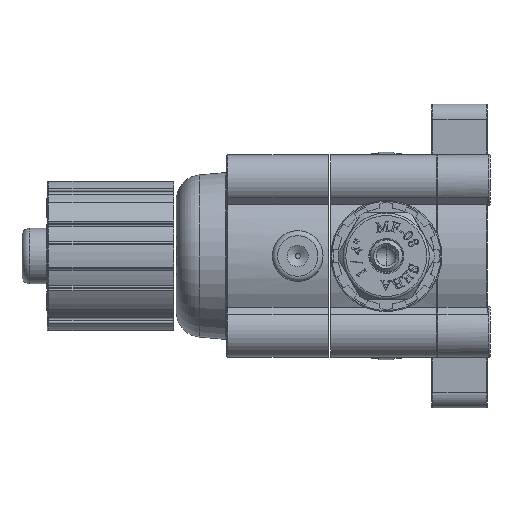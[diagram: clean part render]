
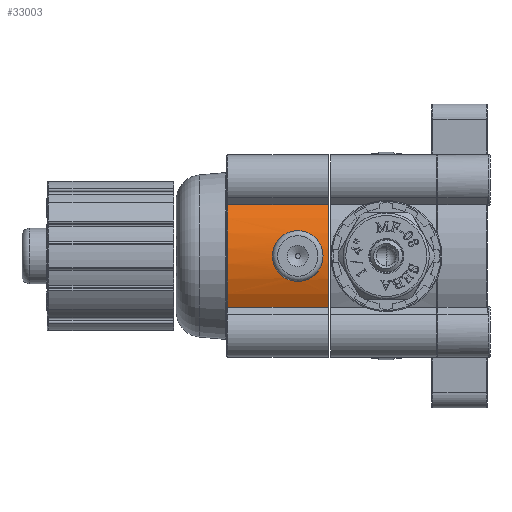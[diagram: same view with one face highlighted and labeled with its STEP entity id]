
A CAD part, left-side view. The second image highlights one B-rep face of the part: STEP entity #33003.
In plain terms, the highlighted cylindrical face has radius 20 mm (diameter 40 mm), a partial arc.
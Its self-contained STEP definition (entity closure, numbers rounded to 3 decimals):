
#1400=B_SPLINE_CURVE_WITH_KNOTS($,3,(#45909,#45910,#45911,#45912,#45913,
#45914,#45915,#45916,#45917,#45918,#45919,#45920,#45921,#45922,#45923,#45924,
#45925,#45926,#45927,#45928,#45929,#45930,#45931,#45932,#45933,#45934,#45935,
#45936,#45937,#45938,#45939,#45940,#45941,#45942,#45943),.UNSPECIFIED.,
 .T.,.F.,(4,2,2,2,2,2,2,2,3,2,2,2,2,2,2,2,4),(1.514,1.703,
1.892,2.081,2.271,2.46,2.649,
2.838,3.027,3.217,3.406,3.595,
3.784,3.973,4.163,4.352,4.541),
 .UNSPECIFIED.);
#1999=LINE($,#45902,#4986);
#2000=LINE($,#45906,#4987);
#4986=VECTOR($,#37539,19.8);
#4987=VECTOR($,#37542,19.8);
#7977=FACE_BOUND($,#10026,.T.);
#8209=FACE_OUTER_BOUND($,#10025,.T.);
#10025=EDGE_LOOP($,(#21161,#21162,#21163,#21164));
#10026=EDGE_LOOP($,(#21165));
#12069=CIRCLE($,#34835,20.);
#12070=CIRCLE($,#34836,20.);
#13213=VERTEX_POINT($,#45900);
#13214=VERTEX_POINT($,#45901);
#13215=VERTEX_POINT($,#45903);
#13216=VERTEX_POINT($,#45905);
#13217=VERTEX_POINT($,#45908);
#16386=EDGE_CURVE($,#13213,#13214,#1999,.T.);
#16387=EDGE_CURVE($,#13213,#13215,#12069,.F.);
#16388=EDGE_CURVE($,#13215,#13216,#2000,.T.);
#16389=EDGE_CURVE($,#13216,#13214,#12070,.T.);
#16390=EDGE_CURVE($,#13217,#13217,#1400,.T.);
#21161=ORIENTED_EDGE($,*,*,#16386,.F.);
#21162=ORIENTED_EDGE($,*,*,#16387,.T.);
#21163=ORIENTED_EDGE($,*,*,#16388,.T.);
#21164=ORIENTED_EDGE($,*,*,#16389,.T.);
#21165=ORIENTED_EDGE($,*,*,#16390,.F.);
#30707=CYLINDRICAL_SURFACE($,#34834,20.);
#33003=ADVANCED_FACE($,(#8209,#7977),#30707,.T.);
#34834=AXIS2_PLACEMENT_3D($,#45899,#37537,#37538);
#34835=AXIS2_PLACEMENT_3D($,#45904,#37540,#37541);
#34836=AXIS2_PLACEMENT_3D($,#45907,#37543,#37544);
#37537=DIRECTION('center_axis',(0.,-1.,0.));
#37538=DIRECTION('ref_axis',(0.,0.,-1.));
#37539=DIRECTION($,(0.,-1.,0.));
#37540=DIRECTION('center_axis',(0.,1.,0.));
#37541=DIRECTION('ref_axis',(0.,0.,1.));
#37542=DIRECTION($,(0.,-1.,0.));
#37543=DIRECTION('center_axis',(0.,1.,0.));
#37544=DIRECTION('ref_axis',(0.,0.,1.));
#45899=CARTESIAN_POINT('Origin',(0.,61.5,0.));
#45900=CARTESIAN_POINT('',(-17.229,61.3,10.158));
#45901=CARTESIAN_POINT('',(-17.229,41.5,10.158));
#45902=CARTESIAN_POINT($,(-17.229,61.3,10.158));
#45903=CARTESIAN_POINT('',(-17.229,61.3,-10.158));
#45904=CARTESIAN_POINT('Origin',(0.,61.3,0.));
#45905=CARTESIAN_POINT('',(-17.229,41.5,-10.158));
#45906=CARTESIAN_POINT($,(-17.229,61.3,-10.158));
#45907=CARTESIAN_POINT('Origin',(0.,41.5,0.));
#45908=CARTESIAN_POINT('',(-19.365,47.5,5.));
#45909=CARTESIAN_POINT('Ctrl Pts',(-19.365,47.5,5.));
#45910=CARTESIAN_POINT('Ctrl Pts',(-19.365,48.131,5.));
#45911=CARTESIAN_POINT('Ctrl Pts',(-19.399,48.802,4.873));
#45912=CARTESIAN_POINT('Ctrl Pts',(-19.52,50.033,4.362));
#45913=CARTESIAN_POINT('Ctrl Pts',(-19.606,50.593,3.978));
#45914=CARTESIAN_POINT('Ctrl Pts',(-19.764,51.478,3.093));
#45915=CARTESIAN_POINT('Ctrl Pts',(-19.849,51.862,2.533));
#45916=CARTESIAN_POINT('Ctrl Pts',(-19.967,52.373,1.302));
#45917=CARTESIAN_POINT('Ctrl Pts',(-20.,52.5,0.631));
#45918=CARTESIAN_POINT('Ctrl Pts',(-20.,52.5,-0.631));
#45919=CARTESIAN_POINT('Ctrl Pts',(-19.967,52.373,-1.302));
#45920=CARTESIAN_POINT('Ctrl Pts',(-19.849,51.862,-2.533));
#45921=CARTESIAN_POINT('Ctrl Pts',(-19.764,51.478,-3.093));
#45922=CARTESIAN_POINT('Ctrl Pts',(-19.606,50.593,-3.978));
#45923=CARTESIAN_POINT('Ctrl Pts',(-19.52,50.033,-4.362));
#45924=CARTESIAN_POINT('Ctrl Pts',(-19.399,48.802,-4.873));
#45925=CARTESIAN_POINT('Ctrl Pts',(-19.365,48.131,-5.));
#45926=CARTESIAN_POINT('Ctrl Pts',(-19.365,47.5,-5.));
#45927=CARTESIAN_POINT('Ctrl Pts',(-19.365,46.869,-5.));
#45928=CARTESIAN_POINT('Ctrl Pts',(-19.399,46.198,-4.873));
#45929=CARTESIAN_POINT('Ctrl Pts',(-19.52,44.967,-4.362));
#45930=CARTESIAN_POINT('Ctrl Pts',(-19.606,44.407,-3.978));
#45931=CARTESIAN_POINT('Ctrl Pts',(-19.764,43.522,-3.093));
#45932=CARTESIAN_POINT('Ctrl Pts',(-19.849,43.138,-2.533));
#45933=CARTESIAN_POINT('Ctrl Pts',(-19.967,42.627,-1.302));
#45934=CARTESIAN_POINT('Ctrl Pts',(-20.,42.5,-0.631));
#45935=CARTESIAN_POINT('Ctrl Pts',(-20.,42.5,0.631));
#45936=CARTESIAN_POINT('Ctrl Pts',(-19.967,42.627,1.302));
#45937=CARTESIAN_POINT('Ctrl Pts',(-19.849,43.138,2.533));
#45938=CARTESIAN_POINT('Ctrl Pts',(-19.764,43.522,3.093));
#45939=CARTESIAN_POINT('Ctrl Pts',(-19.606,44.407,3.978));
#45940=CARTESIAN_POINT('Ctrl Pts',(-19.52,44.967,4.362));
#45941=CARTESIAN_POINT('Ctrl Pts',(-19.399,46.198,4.873));
#45942=CARTESIAN_POINT('Ctrl Pts',(-19.365,46.869,5.));
#45943=CARTESIAN_POINT('Ctrl Pts',(-19.365,47.5,5.));
